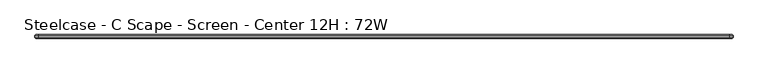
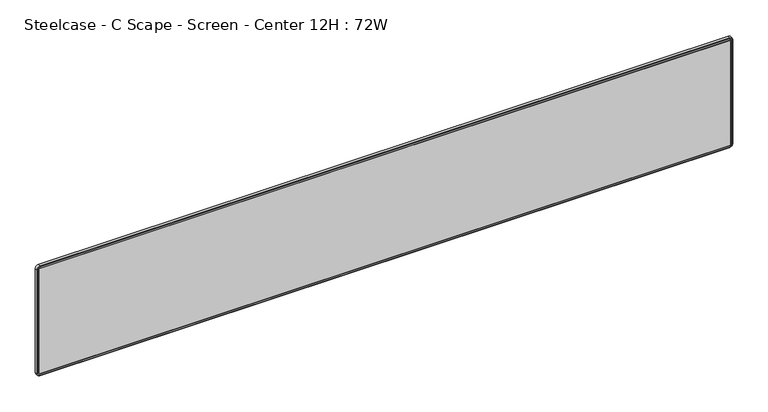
"""IFC4 building model written with IfcOpenShell, lengths in millimetres: furniture geometry, Steelcase - C Scape - Screen - Center 12H : 72W."""

from ifc_helpers import new_model, si_unit, frame, origin, place, context, project, spatial, polyline, circle_curve, outline, extrude, source, transform, mapped, element, save
from ifc_brep_helpers import plane_surface, cylinder_surface, revolved_surface, advanced_brep


def steelcase_c_scape_screen_center_12h_72w_8d58441a(model_context):
    return source(origin(), model_context, "Body", "SolidModel", [
        advanced_brep(
        [(6.3501994, -7.9375, 975.2694951), (8.21859, -7.9375, 977.1378857), (8.21859, -17.4625, 977.1378857), (6.3501994, -17.4625, 975.2694951), (0.0002237, -9.6896209, 975.2694951), (8.21859, -9.6896209, 983.4878614), (8.21859, -7.9375, 981.7357406), (1.7523445, -7.9375, 975.2694951), (0.0002237, -15.7098203, 975.2694951), (8.21859, -15.7098203, 983.4878614), (1.7529034, -17.4625, 975.2694951), (8.21859, -17.4625, 981.7351817), (6.3501994, -17.4625, 686.9063005), (6.3501994, -7.9375, 686.9063005), (1.7523445, -7.9375, 686.9063005), (0.0002237, -9.6896209, 686.9063005), (0.0002237, -15.7098203, 686.9063005), (1.7529034, -17.4625, 686.9063005), (8.21859, -7.9375, 685.0379099), (8.21859, -17.4625, 685.0379099), (8.21859, -9.6896209, 678.6879341), (8.21859, -7.9375, 680.440055), (8.21859, -15.7098203, 678.6879341), (8.21859, -17.4625, 680.4406139), (1817.406615, -17.4625, 685.0379099), (1817.406615, -7.9375, 685.0379099), (1817.406615, -7.9375, 680.440055), (1817.406615, -9.6896209, 678.6879341), (1817.406615, -15.7098203, 678.6879341), (1817.406615, -17.4625, 680.4406139), (1819.2750056, -7.9375, 686.9063005), (1819.2750056, -17.4625, 686.9063005), (1825.6249814, -9.6896209, 686.9063005), (1823.8728605, -7.9375, 686.9063005), (1825.6249814, -15.7098203, 686.9063005), (1823.8723017, -17.4625, 686.9063005), (1819.2750056, -17.4625, 975.2694951), (1819.2750056, -7.9375, 975.2694951), (1823.8728605, -7.9375, 975.2694951), (1825.6249814, -9.6896209, 975.2694951), (1825.6249814, -15.7098203, 975.2694951), (1823.8723017, -17.4625, 975.2694951), (1817.406615, -7.9375, 977.1378857), (1817.406615, -17.4625, 977.1378857), (1817.406615, -7.9375, 981.7357406), (1817.406615, -9.6896209, 983.4878614), (1817.406615, -15.7098203, 983.4878614), (1817.406615, -17.4625, 981.7351817)],
        [
            (0, 1, circle_curve(frame((8.21859, -7.9375, 975.2694951), z_axis=(0.0, 1.0, 0.0), x_axis=(0.0, 0.0, 1.0)), 1.8683906)),
            (1, 2),
            (2, 3, circle_curve(frame((8.21859, -17.4625, 975.2694951), z_axis=(0.0, -1.0, 0.0), x_axis=(0.0, 0.0, 1.0)), 1.8683906)),
            (3, 0),
            (4, 5, circle_curve(frame((8.21859, -9.6896209, 975.2694951), z_axis=(0.0, 1.0, 0.0), x_axis=(0.0, 0.0, 1.0)), 8.2183664)),
            (5, 6),
            (6, 7, circle_curve(frame((8.21859, -7.9375, 975.2694951), z_axis=(0.0, -1.0, 0.0), x_axis=(0.0, 0.0, 1.0)), 6.4662455)),
            (7, 4),
            (8, 9, circle_curve(frame((8.21859, -15.7098203, 975.2694951), z_axis=(0.0, 1.0, 0.0), x_axis=(0.0, 0.0, 1.0)), 8.2183664)),
            (9, 5),
            (4, 8),
            (10, 11, circle_curve(frame((8.21859, -17.4625, 975.2694951), z_axis=(0.0, 1.0, 0.0), x_axis=(0.0, 0.0, 1.0)), 6.4656866)),
            (11, 9),
            (8, 10),
            (3, 12),
            (12, 13),
            (13, 0),
            (7, 14),
            (14, 15),
            (15, 4),
            (15, 16),
            (16, 8),
            (16, 17),
            (17, 10),
            (18, 13, circle_curve(frame((8.21859, -7.9375, 686.9063005), z_axis=(0.0, 1.0, 0.0), x_axis=(-1.0, 0.0, 0.0)), 1.8683906)),
            (12, 19, circle_curve(frame((8.21859, -17.4625, 686.9063005), z_axis=(0.0, -1.0, 0.0), x_axis=(-1.0, 0.0, 0.0)), 1.8683906)),
            (19, 18),
            (20, 15, circle_curve(frame((8.21859, -9.6896209, 686.9063005), z_axis=(0.0, 1.0, 0.0), x_axis=(-1.0, 0.0, 0.0)), 8.2183664)),
            (14, 21, circle_curve(frame((8.21859, -7.9375, 686.9063005), z_axis=(0.0, -1.0, 0.0), x_axis=(-1.0, 0.0, 0.0)), 6.4662455)),
            (21, 20),
            (22, 16, circle_curve(frame((8.21859, -15.7098203, 686.9063005), z_axis=(0.0, 1.0, 0.0), x_axis=(-1.0, 0.0, 0.0)), 8.2183664)),
            (20, 22),
            (23, 17, circle_curve(frame((8.21859, -17.4625, 686.9063005), z_axis=(0.0, 1.0, 0.0), x_axis=(-1.0, 0.0, 0.0)), 6.4656866)),
            (22, 23),
            (19, 24),
            (24, 25),
            (25, 18),
            (21, 26),
            (26, 27),
            (27, 20),
            (27, 28),
            (28, 22),
            (28, 29),
            (29, 23),
            (30, 25, circle_curve(frame((1817.406615, -7.9375, 686.9063005), z_axis=(0.0, 1.0, 0.0), x_axis=(0.0, 0.0, -1.0)), 1.8683906)),
            (24, 31, circle_curve(frame((1817.406615, -17.4625, 686.9063005), z_axis=(0.0, -1.0, 0.0), x_axis=(0.0, 0.0, -1.0)), 1.8683906)),
            (31, 30),
            (32, 27, circle_curve(frame((1817.406615, -9.6896209, 686.9063005), z_axis=(0.0, 1.0, 0.0), x_axis=(0.0, 0.0, -1.0)), 8.2183664)),
            (26, 33, circle_curve(frame((1817.406615, -7.9375, 686.9063005), z_axis=(0.0, -1.0, 0.0), x_axis=(0.0, 0.0, -1.0)), 6.4662455)),
            (33, 32),
            (34, 28, circle_curve(frame((1817.406615, -15.7098203, 686.9063005), z_axis=(0.0, 1.0, 0.0), x_axis=(0.0, 0.0, -1.0)), 8.2183664)),
            (32, 34),
            (35, 29, circle_curve(frame((1817.406615, -17.4625, 686.9063005), z_axis=(0.0, 1.0, 0.0), x_axis=(0.0, 0.0, -1.0)), 6.4656866)),
            (34, 35),
            (31, 36),
            (36, 37),
            (37, 30),
            (33, 38),
            (38, 39),
            (39, 32),
            (39, 40),
            (40, 34),
            (40, 41),
            (41, 35),
            (42, 37, circle_curve(frame((1817.406615, -7.9375, 975.2694951), z_axis=(0.0, 1.0, 0.0), x_axis=(1.0, 0.0, 0.0)), 1.8683906)),
            (36, 43, circle_curve(frame((1817.406615, -17.4625, 975.2694951), z_axis=(0.0, -1.0, 0.0), x_axis=(1.0, 0.0, 0.0)), 1.8683906)),
            (43, 42),
            (44, 38, circle_curve(frame((1817.406615, -7.9375, 975.2694951), z_axis=(0.0, 1.0, 0.0), x_axis=(1.0, 0.0, 0.0)), 6.4662455)),
            (6, 44),
            (42, 1),
            (45, 39, circle_curve(frame((1817.406615, -9.6896209, 975.2694951), z_axis=(0.0, 1.0, 0.0), x_axis=(1.0, 0.0, 0.0)), 8.2183664)),
            (44, 45),
            (46, 40, circle_curve(frame((1817.406615, -15.7098203, 975.2694951), z_axis=(0.0, 1.0, 0.0), x_axis=(1.0, 0.0, 0.0)), 8.2183664)),
            (45, 46),
            (47, 41, circle_curve(frame((1817.406615, -17.4625, 975.2694951), z_axis=(0.0, 1.0, 0.0), x_axis=(1.0, 0.0, 0.0)), 6.4656866)),
            (46, 47),
            (47, 11),
            (2, 43),
            (5, 45),
            (9, 46),
        ],
        [
            revolved_surface(polyline([(8.21859, -17.4625, 977.1378857), (8.21859, -7.9375, 977.1378857)]), (8.21859, -7.9375, 975.2694951), (0.0, -1.0, 0.0)),
            revolved_surface(polyline([(8.21859, -7.9375, 981.7357406), (8.21859, -9.6896209, 983.4878614)]), (8.21859, -7.9375, 975.2694951), (0.0, -1.0, 0.0)),
            cylinder_surface(frame((8.21859, -7.9375, 975.2694951), z_axis=(0.0, -1.0, 0.0), x_axis=(0.0, 0.0, 1.0)), 8.2183664),
            revolved_surface(polyline([(8.21859, -15.7098203, 983.4878614), (8.21859, -17.4625, 981.7351817)]), (8.21859, -7.9375, 975.2694951), (0.0, -1.0, 0.0)),
            plane_surface(frame((6.3501994, -17.4625, 975.2694951), z_axis=(1.0, 0.0, 0.0), x_axis=(0.0, 0.0, -1.0))),
            plane_surface(frame((1.7523445, -7.9375, 975.2694951), z_axis=(-0.7071067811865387, 0.7071067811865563, 0.0), x_axis=(0.0, 0.0, -1.0))),
            plane_surface(frame((0.0002237, -9.6896209, 975.2694951), z_axis=(-1.0, 0.0, 0.0), x_axis=(0.0, 0.0, -1.0))),
            plane_surface(frame((0.0002237, -15.7098203, 975.2694951), z_axis=(-0.7071067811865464, -0.7071067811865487, 0.0), x_axis=(0.0, 0.0, -1.0))),
            revolved_surface(polyline([(6.350199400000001, -17.4625, 686.9063005), (6.350199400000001, -7.9375, 686.9063005)]), (8.21859, -7.9375, 686.9063005), (0.0, -1.0, 0.0)),
            revolved_surface(polyline([(1.7523445, -7.9375, 686.9063005), (0.0002237, -9.6896209, 686.9063005)]), (8.21859, -7.9375, 686.9063005), (0.0, -1.0, 0.0)),
            cylinder_surface(frame((8.21859, -7.9375, 686.9063005), z_axis=(0.0, -1.0, 0.0), x_axis=(-1.0, 0.0, 0.0)), 8.2183664),
            revolved_surface(polyline([(0.0002237, -15.7098203, 686.9063005), (1.7529034, -17.4625, 686.9063005)]), (8.21859, -7.9375, 686.9063005), (0.0, -1.0, 0.0)),
            plane_surface(frame((8.21859, -17.4625, 685.0379099), z_axis=(0.0, 0.0, 1.0), x_axis=(1.0, 0.0, 0.0))),
            plane_surface(frame((8.21859, -7.9375, 680.440055), z_axis=(0.0, 0.7071067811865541, -0.7071067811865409), x_axis=(1.0, 0.0, 0.0))),
            plane_surface(frame((8.21859, -9.6896209, 678.6879341), z_axis=(0.0, 0.0, -1.0), x_axis=(1.0, 0.0, 0.0))),
            plane_surface(frame((8.21859, -15.7098203, 678.6879341), z_axis=(0.0, -0.7071067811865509, -0.7071067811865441), x_axis=(1.0, 0.0, 0.0))),
            revolved_surface(polyline([(1817.406615, -17.4625, 685.0379099), (1817.406615, -7.9375, 685.0379099)]), (1817.406615, -7.9375, 686.9063005), (0.0, -1.0, 0.0)),
            revolved_surface(polyline([(1817.406615, -7.9375, 680.440055), (1817.406615, -9.6896209, 678.6879341)]), (1817.406615, -7.9375, 686.9063005), (0.0, -1.0, 0.0)),
            cylinder_surface(frame((1817.406615, -7.9375, 686.9063005), z_axis=(0.0, -1.0, 0.0), x_axis=(0.0, 0.0, -1.0)), 8.2183664),
            revolved_surface(polyline([(1817.406615, -15.7098203, 678.6879341), (1817.406615, -17.4625, 680.4406139)]), (1817.406615, -7.9375, 686.9063005), (0.0, -1.0, 0.0)),
            plane_surface(frame((1819.2750056, -17.4625, 686.9063005), z_axis=(-1.0, 0.0, 0.0), x_axis=(0.0, 0.0, 1.0))),
            plane_surface(frame((1823.8728605, -7.9375, 686.9063005), z_axis=(0.7071067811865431, 0.7071067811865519, 0.0), x_axis=(0.0, 0.0, 1.0))),
            plane_surface(frame((1825.6249814, -9.6896209, 686.9063005), z_axis=(1.0, 0.0, 0.0), x_axis=(0.0, 0.0, 1.0))),
            plane_surface(frame((1825.6249814, -15.7098203, 686.9063005), z_axis=(0.7071067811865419, -0.7071067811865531, 0.0), x_axis=(0.0, 0.0, 1.0))),
            revolved_surface(polyline([(1819.2750056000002, -17.4625, 975.2694951), (1819.2750056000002, -7.9375, 975.2694951)]), (1817.406615, -7.9375, 975.2694951), (0.0, -1.0, 0.0)),
            plane_surface(frame((1817.406615, -7.9375, 975.2694951), z_axis=(0.0, 1.0, 0.0), x_axis=(1.0, 0.0, 0.0))),
            revolved_surface(polyline([(1823.8728605, -7.9375, 975.2694951), (1825.6249814, -9.6896209, 975.2694951)]), (1817.406615, -7.9375, 975.2694951), (0.0, -1.0, 0.0)),
            cylinder_surface(frame((1817.406615, -7.9375, 975.2694951), z_axis=(0.0, -1.0, 0.0), x_axis=(1.0, 0.0, 0.0)), 8.2183664),
            revolved_surface(polyline([(1825.6249814, -15.7098203, 975.2694951), (1823.8723017, -17.4625, 975.2694951)]), (1817.406615, -7.9375, 975.2694951), (0.0, -1.0, 0.0)),
            plane_surface(frame((1817.406615, -17.4625, 975.2694951), z_axis=(0.0, -1.0, 0.0), x_axis=(1.0, 0.0, 0.0))),
            plane_surface(frame((1817.406615, -17.4625, 977.1378857), z_axis=(0.0, 0.0, -1.0), x_axis=(-1.0, 0.0, 0.0))),
            plane_surface(frame((1817.406615, -7.9375, 981.7357406), z_axis=(0.0, 0.7071067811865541, 0.7071067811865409), x_axis=(-1.0, 0.0, 0.0))),
            plane_surface(frame((1817.406615, -9.6896209, 983.4878614), z_axis=(0.0, 0.0, 1.0), x_axis=(-1.0, 0.0, 0.0))),
            plane_surface(frame((1817.406615, -15.7098203, 983.4878614), z_axis=(0.0, -0.7071067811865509, 0.7071067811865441), x_axis=(-1.0, 0.0, 0.0))),
        ],
        [
            (0, [[1, 2, 3, 4]]),
            (1, [[5, 6, 7, 8]]),
            (2, [[9, 10, -5, 11]]),
            (3, [[12, 13, -9, 14]]),
            (4, [[-4, 15, 16, 17]]),
            (5, [[-8, 18, 19, 20]]),
            (6, [[-11, -20, 21, 22]]),
            (7, [[-14, -22, 23, 24]]),
            (8, [[25, -16, 26, 27]]),
            (9, [[28, -19, 29, 30]]),
            (10, [[31, -21, -28, 32]]),
            (11, [[33, -23, -31, 34]]),
            (12, [[-27, 35, 36, 37]]),
            (13, [[-30, 38, 39, 40]]),
            (14, [[-32, -40, 41, 42]]),
            (15, [[-34, -42, 43, 44]]),
            (16, [[45, -36, 46, 47]]),
            (17, [[48, -39, 49, 50]]),
            (18, [[51, -41, -48, 52]]),
            (19, [[53, -43, -51, 54]]),
            (20, [[-47, 55, 56, 57]]),
            (21, [[-50, 58, 59, 60]]),
            (22, [[-52, -60, 61, 62]]),
            (23, [[-54, -62, 63, 64]]),
            (24, [[65, -56, 66, 67]]),
            (25, [[68, -58, -49, -38, -29, -18, -7, 69], [-37, -45, -57, -65, 70, -1, -17, -25]]),
            (26, [[71, -59, -68, 72]]),
            (27, [[73, -61, -71, 74]]),
            (28, [[75, -63, -73, 76]]),
            (29, [[-44, -53, -64, -75, 77, -12, -24, -33], [-66, -55, -46, -35, -26, -15, -3, 78]]),
            (30, [[-67, -78, -2, -70]]),
            (31, [[-72, -69, -6, 79]]),
            (32, [[-74, -79, -10, 80]]),
            (33, [[-76, -80, -13, -77]]),
        ],
    ),
        extrude(outline(polyline([(1819.2750056, -7.9375), (1819.2750056, -17.4625), (6.3501994, -17.4625), (6.3501994, -7.9375), (1819.2750056, -7.9375)])), frame((0.0, 0.0, 685.0379099), z_axis=(0.0, 0.0, 1.0), x_axis=(1.0, 0.0, 0.0)), (0.0, 0.0, 1.0), 292.0999758),
    ])


if __name__ == "__main__":
    model = new_model("IFC4")
    model_context = context("Model", 3, world=origin())
    ifc_project = project(units=[si_unit("LENGTHUNIT", "METRE", prefix="MILLI")], contexts=[model_context])
    site = spatial("IfcSite", under=ifc_project)
    building = spatial("IfcBuilding", under=site)
    placement = place(None, origin())
    steelcase_c_scape_screen_center_12h_72w_shape = steelcase_c_scape_screen_center_12h_72w_8d58441a(model_context)
    element("IfcFurniture", 1, ObjectType="Steelcase - C Scape - Screen - Center 12H : 72W", at=placement, inside=building, context=model_context, shape_type="MappedRepresentation", body=[
        mapped(steelcase_c_scape_screen_center_12h_72w_shape, transform((0.0, 0.0, 0.0), x_axis=(1.0, 0.0, 0.0), y_axis=(0.0, 1.0, 0.0), z_axis=(0.0, 0.0, 1.0))),
    ])
    save(model, "model.ifc")
